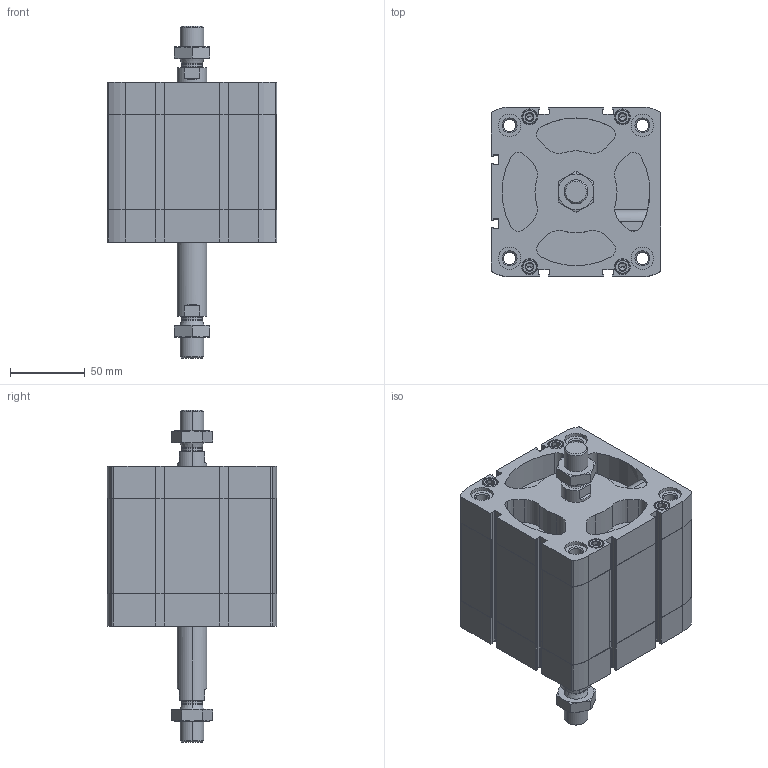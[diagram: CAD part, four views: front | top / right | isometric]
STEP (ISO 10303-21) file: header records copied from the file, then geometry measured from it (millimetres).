
FILE_DESCRIPTION (( 'STEP AP203' ), '1' );
FILE_NAME ('CCN100-40-P.STEP', '2020-06-22T19:10:08', ( '' ), ( '' ), 'SwSTEP 2.0', 'SolidWorks 2019', '' );
FILE_SCHEMA (( 'CONFIG_CONTROL_DESIGN' ));
Length unit declared in the file: millimetre
Products named in the file (1): CCN100-40-P
Bounding box: 113.5 x 113.5 x 222.4 mm (x, y, z)
Volume: 905173.3 mm3; surface area: 191548.7 mm2
Topology: 4 solids, 4 shells, 685 faces, 1757 edges, 1118 vertices
Faces by surface type: plane 305, cylinder 280, cone 92, torus 8
Entity records: 22642 total; most frequent: CARTESIAN_POINT 5549, DIRECTION 3721, ORIENTED_EDGE 3482, EDGE_CURVE 1741, AXIS2_PLACEMENT_3D 1392, VERTEX_POINT 1118, VECTOR 937, LINE 937
